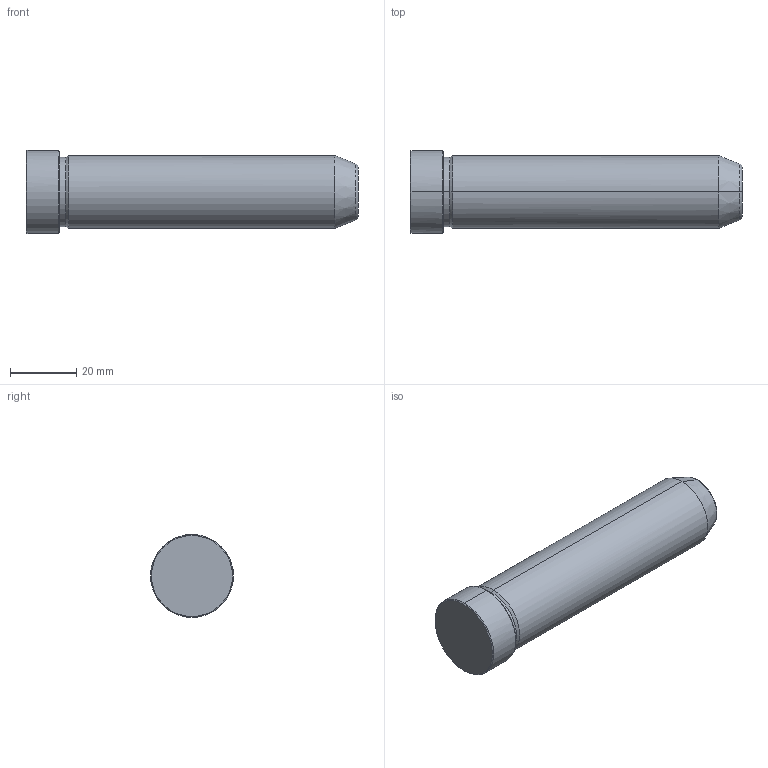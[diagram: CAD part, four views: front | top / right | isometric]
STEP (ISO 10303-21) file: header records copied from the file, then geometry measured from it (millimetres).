
FILE_DESCRIPTION(('CATIA V5 STEP Exchange'),'2;1');
FILE_NAME('C:\Users\Utente\Desktop\IO LAVORO\3D X SITO CF\X SITO\PLASTICA\549\549-22X100.stp','2021-12-13T13:00:23+00:00',('none'),('none'),'CATIA Version 5 Release 20 GA (IN-10)','CATIA V5 STEP AP203','none');
FILE_SCHEMA(('CONFIG_CONTROL_DESIGN'));
Length unit declared in the file: millimetre
Products named in the file (1): 549-22X100
Bounding box: 100 x 25 x 25 mm (x, y, z)
Volume: 38401.8 mm3; surface area: 7786.9 mm2
Topology: 1 solids, 1 shells, 19 faces, 56 edges, 40 vertices
Faces by surface type: cone 8, cylinder 6, plane 3, torus 2
Entity records: 736 total; most frequent: CARTESIAN_POINT 192, ORIENTED_EDGE 112, DIRECTION 86, EDGE_CURVE 56, AXIS2_PLACEMENT_3D 54, VERTEX_POINT 40, CIRCLE 34, EDGE_LOOP 20
